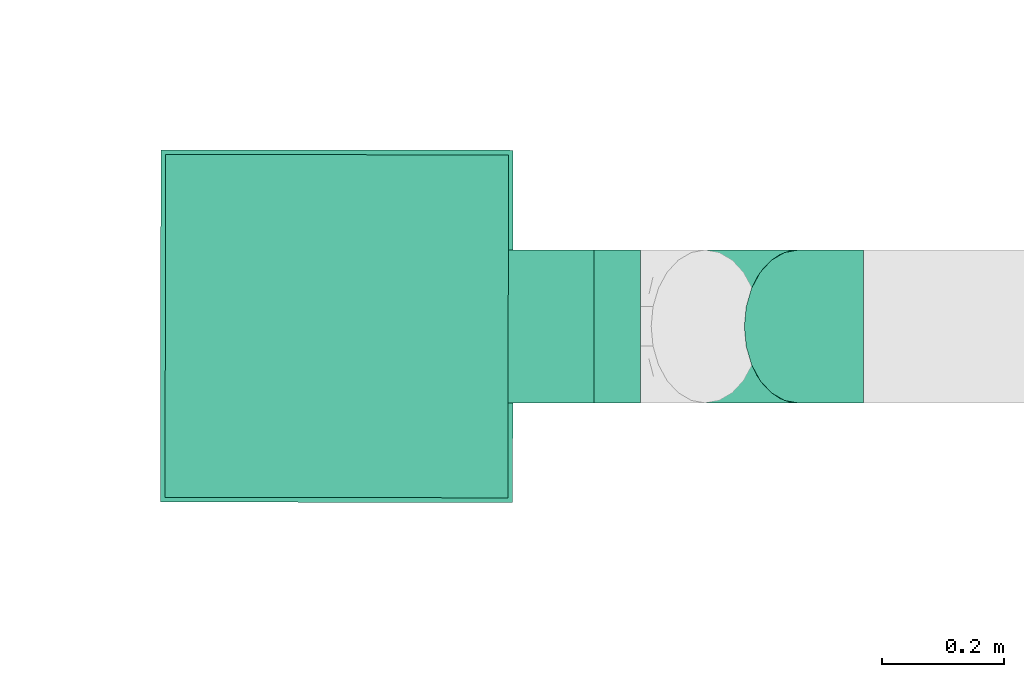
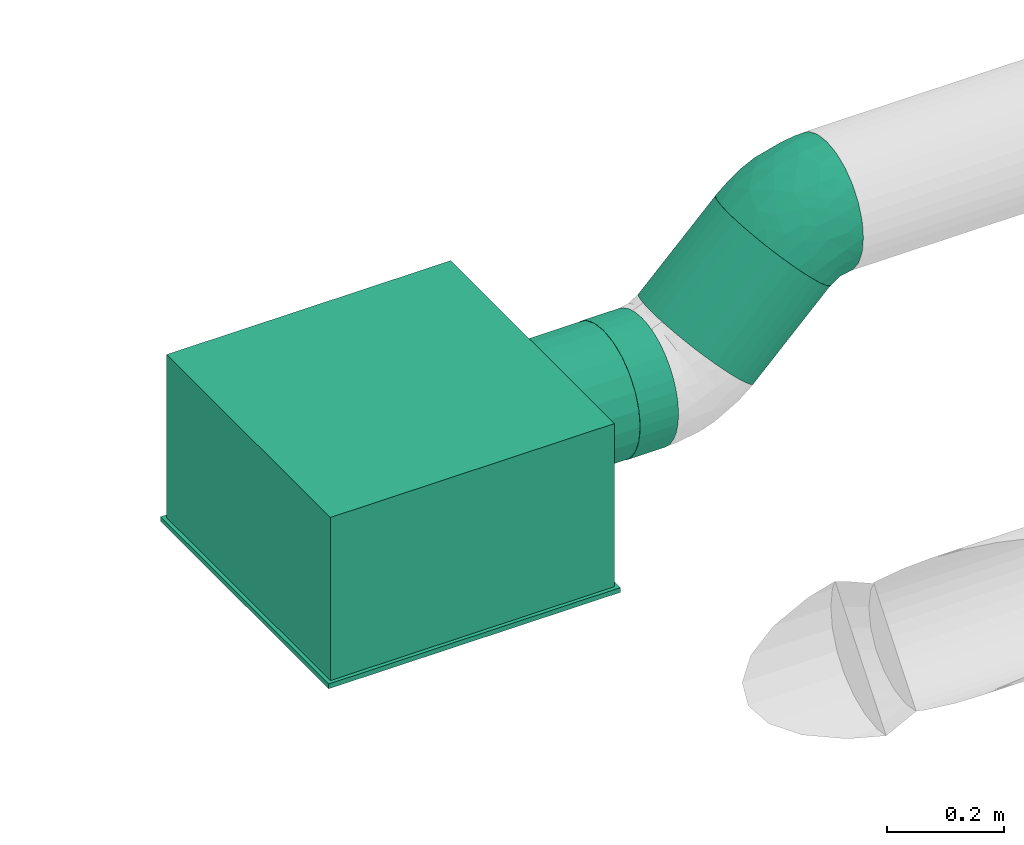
# One storey, part 48 of 63: 2 flow segments, 1 flow fitting, 1 flow terminal.
"""IFC2X3 building model written with IfcOpenShell, lengths in millimetres."""

from ifc_helpers import new_model, entity, si_unit, converted_unit, derived_unit, direction, frame, origin_with_axes, origin_2d_with_axis, place, context, subcontext, project, spatial, hollow_circle, extrude, open_shell, surface_model, source, transform, mapped, type_object, element, save


model = new_model("IFC2X3")

# Units and contexts
model_context = context("Model", 3, precision=0.01, world=frame((0.0, 4.29681676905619e-09, 0.0)), true_north=direction((4.01073788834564e-13, 1.0)))
plan_context = context("Plan", 3, precision=0.01, world=frame((0.0, 4.29681676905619e-09, 0.0)), true_north=direction((4.01073788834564e-13, 1.0)))
body_context = subcontext(model_context, "Body", "Model", "MODEL_VIEW")
ifc_project = project(units=[converted_unit("PLANEANGLEUNIT", "DEGREE", entity("IfcPositiveLengthMeasure", 0.0174532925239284), si_unit("PLANEANGLEUNIT", "RADIAN"), dimensions=[0, 0, 0, 0, 0, 0, 0]), si_unit("AREAUNIT", "SQUARE_METRE"), si_unit("LENGTHUNIT", "METRE", prefix="MILLI"), si_unit("MASSUNIT", "GRAM", prefix="KILO"), si_unit("POWERUNIT", "WATT"), si_unit("PRESSUREUNIT", "PASCAL"), si_unit("FORCEUNIT", "NEWTON", prefix="KILO"), si_unit("ELECTRICVOLTAGEUNIT", "VOLT"), si_unit("ELECTRICCURRENTUNIT", "AMPERE"), si_unit("THERMODYNAMICTEMPERATUREUNIT", "DEGREE_CELSIUS"), si_unit("TIMEUNIT", "SECOND"), si_unit("VOLUMEUNIT", "CUBIC_METRE"), derived_unit("LINEARVELOCITYUNIT", [(si_unit("LENGTHUNIT", "METRE"), 1), (si_unit("TIMEUNIT", "SECOND"), -1)]), derived_unit("VOLUMETRICFLOWRATEUNIT", [(si_unit("VOLUMEUNIT", "CUBIC_METRE"), 1), (si_unit("TIMEUNIT", "SECOND"), -1)]), derived_unit("THERMALTRANSMITTANCEUNIT", [(si_unit("POWERUNIT", "WATT"), 1), (si_unit("THERMODYNAMICTEMPERATUREUNIT", "KELVIN"), -1), (si_unit("AREAUNIT", "SQUARE_METRE"), -1)]), derived_unit("SOUNDPRESSUREUNIT", [(si_unit("PRESSUREUNIT", "PASCAL"), 1)])], contexts=[model_context, plan_context])

# Site, building, storey
site_placement = place(None, frame((0.0, -4.29681676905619e-09, 0.0), z_axis=(0.0, 0.0, 1.0), x_axis=(1.0, 0.0, 0.0)))
site = spatial("IfcSite", under=ifc_project, at=site_placement, CompositionType="ELEMENT")
building_placement = place(site_placement, frame((0.0, 4.29681676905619e-09, 0.0), z_axis=(0.0, 0.0, 1.0), x_axis=(1.0, 0.0, 0.0)))
building = spatial("IfcBuilding", under=site, at=building_placement, Name="mc-building", CompositionType="ELEMENT")
storey_placement = place(building_placement, frame((0.0, 0.0, 210900.0), z_axis=(0.0, 0.0, 1.0), x_axis=(1.0, 0.0, 0.0)))
storey = spatial("IfcBuildingStorey", under=building, at=storey_placement, Name="Nivå F", CompositionType="ELEMENT", Elevation=210900.0)

# Flow fitting
duct_fitting_type = type_object("IfcDuctFittingType", Name="magicirc_elbow_short_001", PredefinedType="BEND")
shared_shape_1 = source(origin_with_axes(), body_context, "Body", "SurfaceModel", [
    surface_model("IfcShellBasedSurfaceModel", [(-62.13204, 0.0, -125.0), (-62.13204, -32.35238, -120.74073), (-62.13204, 32.35238, -120.74073), (-62.13204, 62.5, -108.25318), (-62.13204, 88.38835, -88.38835), (-62.13204, 108.25318, -62.5), (-62.13204, 120.74073, -32.35238), (-62.13204, -62.5, -108.25318), (-62.13204, -88.38835, -88.38835), (-62.13204, -125.0, 0.0), (-62.13204, -108.25318, -62.5), (-62.13204, -120.74073, -32.35238), (-62.13204, 125.0, 0.0), (-62.13204, -120.74073, 32.35238), (-62.13204, 120.74073, 32.35238), (-62.13204, 108.25318, 62.5), (-62.13204, 32.35238, 120.74073), (-62.13204, 62.5, 108.25318), (-62.13204, 88.38835, 88.38835), (-62.13204, -88.38835, 88.38835), (-62.13204, -108.25318, 62.5), (-62.13204, -32.35238, 120.74073), (-62.13204, 0.0, 125.0), (-62.13204, -62.5, 108.25318), (-32.61257, 120.48054, -62.5), (-41.44261, 129.31057, -32.35238), (-44.45436, 132.32233, 0.0), (-41.44261, 129.31057, 32.35238), (-32.61257, 120.48054, 62.5), (-39.32094, -100.77129, 72.52866), (-25.3983, -115.58366, 40.92131), (-9.38975, -99.61313, 67.6303), (-40.71594, 99.20513, 81.38635), (-18.56602, 106.43398, 88.38835), (6.93461, -16.74165, 121.22697), (-29.92798, -19.88945, 122.8817), (-17.69423, -50.99343, 111.83063), (-28.63512, 12.8945, 124.68547), (-43.55871, 45.16564, 117.17454), (-19.1971, 46.34588, 119.14586), (20.11216, -107.05726, 35.36285), (37.22525, -89.79474, 60.1728), (-42.64489, 65.81413, 107.6176), (18.18237, -43.89615, 109.72868), (-48.14682, 116.23669, 52.46898), (11.13029, 29.36587, 124.68547), (-8.4822, -119.71595, 0.0), (17.31186, -111.89141, 0.0), (-27.44697, 77.92943, 103.54984), (-1.13628, 62.73759, 117.17454), (-0.26019, 88.12816, 108.25318), (29.58221, -71.41779, 87.09722), (2.27359, -83.55864, 84.32151), (46.20365, -49.09439, 98.73245), (43.10591, -104.06687, 0.0), (-28.63512, 12.89449, -124.68547), (-29.92797, -19.88945, -122.8817), (11.13029, 29.36586, -124.68547), (-19.1971, 46.34588, -119.14586), (-43.55871, 45.16564, -117.17454), (-35.69649, 74.51237, -103.54983), (-25.3983, -115.58366, -40.92131), (-48.14682, 116.23669, -52.46898), (-39.32094, -100.77129, -72.52866), (-16.38313, 76.69211, -107.6176), (-18.56602, 106.43398, -88.38835), (-0.26019, 88.12816, -108.25318), (-17.69423, -50.99343, -111.83063), (6.93461, -16.74165, -121.22697), (-1.13628, 62.73759, -117.17454), (48.5695, -23.54609, -111.83063), (35.22623, 7.0983, -122.8817), (-9.38975, -99.61313, -67.63031), (2.04406, -67.38589, -98.73245), (29.58221, -71.41778, -87.09723), (43.93399, 43.934, -125.0), (106.43399, -18.56599, 88.38835), (132.32235, -44.45434, 0.0), (21.05739, 66.81058, -120.74073), (88.12817, -0.26017, 108.25318), (66.81057, 21.05741, -120.74073), (106.43399, -18.56599, -88.38835), (88.12817, -0.26017, -108.25318), (129.31058, -41.44258, -32.35238), (120.48055, -32.61255, -62.5), (21.05739, 66.81058, 120.74073), (43.93399, 43.934, 125.0), (129.31058, -41.44258, 32.35238), (120.48055, -32.61255, 62.5), (66.81057, 21.05741, 120.74073), (-31.08246, -121.94188, 0.0), (35.22622, 7.09831, 122.8817), (77.07669, -63.79755, 67.6303), (61.9235, -89.5906, 35.66991), (-52.56496, 126.90301, 0.0), (99.68931, -63.77067, 40.92131), (48.5695, -23.54609, 111.83062), (99.06018, -43.45194, 72.52866), (74.0201, -37.27574, 94.74512), (108.20455, -64.2473, 0.0), (90.64979, -78.65413, 0.0), (66.87785, -91.36049, 0.0), (-3.43913, -67.17105, 100.02812), (19.56361, -107.13664, -35.66991), (-41.35812, 98.93914, -81.38635), (-25.98217, -78.69805, -94.74512), (61.47949, -89.92235, -35.36285), (18.18239, -43.89616, -109.72867), (57.47721, -60.69254, -84.32152), (74.02009, -37.27574, -94.74513), (77.07669, -63.79755, -67.6303), (37.17223, -89.81669, -60.17279), (99.68931, -63.77066, -40.92131), (99.06018, -43.45194, -72.52866), (49.92893, -45.06527, -100.02812), (-25.98217, -78.69805, 94.74512)], [open_shell([[[0, 1, 2]], [[3, 2, 4]], [[1, 5, 2]], [[4, 2, 5]], [[5, 1, 6]], [[7, 8, 1]], [[9, 1, 8]], [[10, 11, 8]], [[9, 8, 11]], [[9, 6, 1]], [[9, 12, 6]], [[12, 13, 14]], [[15, 14, 16]], [[16, 17, 18]], [[15, 16, 18]], [[16, 14, 19]], [[20, 19, 13]], [[19, 14, 13]], [[21, 22, 23]], [[19, 23, 22]], [[19, 22, 16]], [[9, 13, 12]], [[24, 25, 26]], [[26, 27, 28]], [[29, 30, 31]], [[32, 33, 28]], [[30, 20, 13]], [[34, 35, 36]], [[21, 35, 22]], [[21, 23, 36]], [[16, 22, 37]], [[38, 37, 39]], [[31, 40, 41]], [[42, 17, 38]], [[38, 17, 16]], [[43, 34, 36]], [[35, 37, 22]], [[14, 15, 44]], [[42, 32, 18]], [[29, 19, 20]], [[40, 31, 30]], [[37, 45, 39]], [[45, 37, 34]], [[40, 46, 47]], [[42, 18, 17]], [[33, 32, 48]], [[27, 44, 28]], [[48, 39, 49]], [[33, 48, 50]], [[44, 32, 28]], [[18, 32, 15]], [[36, 35, 21]], [[37, 35, 34]], [[41, 51, 52]], [[14, 44, 27]], [[32, 44, 15]], [[37, 38, 16]], [[42, 39, 48]], [[39, 42, 38]], [[42, 48, 32]], [[48, 49, 50]], [[45, 49, 39]], [[30, 29, 20]], [[53, 43, 51]], [[46, 40, 30]], [[47, 54, 40]], [[41, 52, 31]], [[0, 2, 55]], [[56, 1, 0]], [[57, 55, 58]], [[59, 60, 58]], [[10, 61, 11]], [[3, 4, 60]], [[62, 6, 25]], [[61, 10, 63]], [[64, 65, 66]], [[1, 56, 67]], [[8, 63, 10]], [[7, 1, 67]], [[56, 55, 68]], [[25, 24, 62]], [[69, 64, 66]], [[2, 3, 59]], [[59, 55, 2]], [[69, 57, 58]], [[70, 68, 71]], [[55, 57, 68]], [[55, 56, 0]], [[67, 56, 68]], [[57, 71, 68]], [[6, 62, 5]], [[60, 59, 3]], [[55, 59, 58]], [[64, 58, 60]], [[58, 64, 69]], [[61, 63, 72]], [[72, 73, 74]], [[75, 76, 77]], [[66, 26, 78]], [[78, 79, 75]], [[24, 66, 65]], [[66, 24, 26]], [[80, 81, 82]], [[80, 75, 81]], [[81, 83, 84]], [[83, 81, 77]], [[75, 77, 81]], [[26, 28, 50]], [[50, 85, 26]], [[50, 28, 33]], [[26, 85, 86]], [[87, 76, 88]], [[77, 76, 87]], [[79, 86, 89]], [[76, 75, 79]], [[86, 79, 26]], [[78, 26, 79]], [[90, 46, 30]], [[91, 45, 34]], [[92, 41, 93]], [[94, 14, 27]], [[40, 93, 41]], [[94, 12, 14]], [[92, 93, 95]], [[40, 54, 93]], [[96, 89, 91]], [[97, 88, 76]], [[89, 96, 79]], [[88, 97, 95]], [[88, 95, 87]], [[96, 98, 79]], [[53, 92, 98]], [[95, 99, 87]], [[85, 50, 49]], [[41, 92, 51]], [[30, 13, 90]], [[26, 94, 27]], [[93, 100, 95]], [[93, 54, 101]], [[86, 91, 89]], [[86, 85, 45]], [[45, 85, 49]], [[34, 43, 96]], [[79, 98, 76]], [[93, 101, 100]], [[53, 98, 96]], [[97, 98, 92]], [[45, 91, 86]], [[96, 91, 34]], [[13, 9, 90]], [[99, 95, 100]], [[99, 77, 87]], [[98, 97, 76]], [[95, 97, 92]], [[51, 43, 102]], [[51, 102, 52]], [[43, 36, 102]], [[43, 53, 96]], [[92, 53, 51]], [[103, 46, 61]], [[78, 75, 57]], [[4, 104, 60]], [[73, 72, 105]], [[80, 82, 70]], [[61, 90, 11]], [[83, 77, 99]], [[105, 7, 67]], [[106, 100, 101]], [[103, 54, 47]], [[72, 103, 61]], [[105, 8, 7]], [[68, 107, 67]], [[6, 12, 94]], [[108, 109, 110]], [[94, 26, 25]], [[111, 72, 74]], [[112, 83, 99]], [[82, 81, 109]], [[112, 84, 83]], [[64, 104, 65]], [[4, 5, 104]], [[113, 81, 84]], [[109, 108, 114]], [[70, 82, 109]], [[66, 78, 69]], [[75, 80, 71]], [[110, 113, 112]], [[107, 68, 70]], [[112, 99, 100]], [[106, 103, 111]], [[106, 110, 112]], [[110, 106, 111]], [[71, 57, 75]], [[103, 47, 46]], [[94, 25, 6]], [[113, 109, 81]], [[106, 54, 103]], [[73, 105, 67]], [[63, 105, 72]], [[62, 104, 5]], [[65, 104, 24]], [[70, 71, 80]], [[90, 61, 46]], [[90, 9, 11]], [[72, 111, 103]], [[111, 74, 108]], [[104, 62, 24]], [[57, 69, 78]], [[64, 60, 104]], [[112, 113, 84]], [[109, 113, 110]], [[105, 63, 8]], [[114, 70, 109]], [[73, 107, 74]], [[100, 106, 112]], [[101, 54, 106]], [[111, 108, 110]], [[74, 107, 114]], [[74, 114, 108]], [[107, 70, 114]], [[107, 73, 67]], [[23, 115, 36]], [[52, 102, 115]], [[23, 19, 115]], [[29, 115, 19]], [[52, 115, 31]], [[115, 29, 31]], [[102, 36, 115]]])]),
])
flow_fitting_placement = place(storey_placement, frame((533099.33392, 460995.43816, 4200.0), z_axis=(-3.79470760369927e-19, 0.999999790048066, 0.000647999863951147), x_axis=(0.707106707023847, -0.000458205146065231, 0.707106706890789)))
element("IfcFlowFitting", 1, at=flow_fitting_placement, inside=storey, type_object=duct_fitting_type, Name="magicirc_elbow_short_001", context=body_context, shape_type="MappedRepresentation", body=[
    mapped(shared_shape_1, transform((0.0, 0.0, 0.0), scale=1.0)),
])

# Flow segments
duct_segment_type = type_object("IfcDuctSegmentType", Name="KK002T - Spiro kanaler, Forsinket stål, korte bend", PredefinedType="RIGIDSEGMENT")
shared_shape_2 = source(origin_with_axes(), body_context, "Body", "SweptSolid", [
    extrude(hollow_circle(Radius=125.0, WallThickness=2.0, at=origin_2d_with_axis()), frame((0.0, 0.0, 0.0), z_axis=(1.0, 0.0, 0.0), x_axis=(0.0, 1.0, 0.0)), (0.0, 0.0, 1.0), 75.7),
])
flow_segment_1_placement = place(storey_placement, frame((532721.49467, 460995.68291, 3960.01264), z_axis=(0.0, 0.0, 1.0), x_axis=(0.999999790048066, -0.000647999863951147, 0.0)))
element("IfcFlowSegment", 2, at=flow_segment_1_placement, inside=storey, type_object=duct_segment_type, Name="KK002T - Spiro kanaler, Forsinket stål, korte bend", context=body_context, shape_type="MappedRepresentation", body=[
    mapped(shared_shape_2, transform((0.0, 0.0, 0.0), scale=1.0)),
])
shared_shape_3 = source(origin_with_axes(), body_context, "Body", "SweptSolid", [
    extrude(hollow_circle(Radius=125.0, WallThickness=2.0, at=origin_2d_with_axis()), frame((0.0, 0.0, 0.0), z_axis=(1.0, 0.0, 0.0), x_axis=(0.0, 1.0, 0.0)), (0.0, 0.0, 1.0), 215.1),
])
flow_segment_2_placement = place(storey_placement, frame((532903.28065, 460995.56516, 4003.94662999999), z_axis=(-0.707106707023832, 0.00045799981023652, 0.707106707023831), x_axis=(0.707106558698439, -0.000457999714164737, 0.707106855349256)))
element("IfcFlowSegment", 3, at=flow_segment_2_placement, inside=storey, type_object=duct_segment_type, Name="KK002T - Spiro kanaler, Forsinket stål, korte bend", context=body_context, shape_type="MappedRepresentation", body=[
    mapped(shared_shape_3, transform((0.0, 0.0, 0.0), scale=1.0)),
])

# Flow terminal
air_terminal_type = type_object("IfcAirTerminalType", Name="NS19-H-S-2-250 - 4-way", PredefinedType="NOTDEFINED")
shared_shape_4 = source(origin_with_axes(), body_context, "Body", "SurfaceModel", [
    surface_model("IfcShellBasedSurfaceModel", [(-287.5, 287.5, 0.0), (-287.5, -287.5, 0.0), (287.5, -287.5, 0.0), (287.5, 287.5, 0.0), (287.5, 287.5, -10.0), (287.5, -287.5, -10.0), (-287.5, -287.5, -10.0), (-287.5, 287.5, -10.0), (-280.0, 280.0, 340.0), (-280.0, -280.0, 340.0), (280.0, -280.0, 340.0), (280.0, 280.0, 340.0), (280.0, 280.0, 0.0), (280.0, -280.0, 0.0), (-280.0, -280.0, 0.0), (-280.0, 280.0, 0.0), (-280.0, 62.5, 81.74683), (-280.0, 88.38835, 101.61165), (-280.0, 62.4, 81.92003), (-280.0, 32.30062, 69.45246), (-280.0, 0.0, 65.2), (-280.0, 32.35238, 69.25927), (-280.0, 0.0, 65.0), (-280.0, 88.24693, 101.75307), (-280.0, 120.74073, 157.64763), (-280.0, 124.8, 189.99999), (-280.0, 120.54755, 157.69939), (-280.0, 125.0, 189.99999), (-280.0, 108.25318, 127.5), (-280.0, 108.07997, 127.6), (-280.0, -32.30062, 69.45246), (-280.0, -32.35238, 69.25927), (-280.0, -62.4, 81.92003), (-280.0, -88.38835, 101.61165), (-280.0, -62.5, 81.74683), (-280.0, -88.24693, 101.75307), (-280.0, -108.07997, 127.6), (-280.0, -108.25318, 127.5), (-280.0, -120.54755, 157.69939), (-280.0, -120.74073, 157.64763), (-280.0, -124.8, 189.99999), (-280.0, -125.0, 189.99999), (-280.0, 120.74073, 222.35238), (-280.0, 120.54755, 222.30062), (-280.0, 108.07997, 252.4), (-280.0, 108.25318, 252.49999), (-280.0, 88.24693, 278.24693), (-280.0, 88.38835, 278.38835), (-280.0, 62.5, 298.25318), (-280.0, 62.4, 298.07997), (-280.0, 32.30062, 310.54754), (-280.0, 32.35238, 310.74073), (-280.0, 0.0, 314.80001), (-280.0, 0.0, 315.0), (-280.0, -108.25318, 252.49999), (-280.0, -108.07997, 252.4), (-280.0, -88.38835, 278.38835), (-280.0, -88.24693, 278.24693), (-280.0, -120.74073, 222.35238), (-280.0, -120.54755, 222.30062), (-280.0, -32.30062, 310.54754), (-280.0, -32.35238, 310.74073), (-280.0, -62.4, 298.07997), (-280.0, -62.5, 298.25318), (-420.00002, 62.5, 298.25318), (-420.00002, 88.38835, 278.38835), (-420.00002, 62.4, 298.07997), (-420.00002, 32.30062, 310.54754), (-420.00002, 0.0, 314.80001), (-420.00002, 32.35238, 310.74073), (-420.00002, 0.0, 315.0), (-420.00002, 88.24693, 278.24693), (-420.00002, 120.74073, 222.35238), (-420.00002, 124.8, 189.99999), (-420.00002, 120.54755, 222.30062), (-420.00002, 125.0, 189.99999), (-420.00002, 108.25318, 252.49999), (-420.00002, 108.07997, 252.4), (-420.00002, -32.30062, 310.54754), (-420.00002, -32.35238, 310.74073), (-420.00002, -62.4, 298.07997), (-420.00002, -88.38835, 278.38835), (-420.00002, -62.5, 298.25318), (-420.00002, -88.24693, 278.24693), (-420.00002, -108.07997, 252.4), (-420.00002, -108.25318, 252.49999), (-420.00002, -120.54755, 222.30062), (-420.00002, -120.74073, 222.35238), (-420.00002, -124.8, 189.99999), (-420.00002, -125.0, 189.99999), (-420.00002, 120.74073, 157.64763), (-420.00002, 120.54755, 157.69939), (-420.00002, 108.07997, 127.6), (-420.00002, 108.25318, 127.5), (-420.00002, 88.24693, 101.75307), (-420.00002, 88.38835, 101.61165), (-420.00002, 62.5, 81.74683), (-420.00002, 62.4, 81.92003), (-420.00002, 32.30062, 69.45246), (-420.00002, 32.35238, 69.25927), (-420.00002, 0.0, 65.2), (-420.00002, 0.0, 65.0), (-420.00002, -108.25318, 127.5), (-420.00002, -108.07997, 127.6), (-420.00002, -88.38835, 101.61165), (-420.00002, -88.24693, 101.75307), (-420.00002, -120.74073, 157.64763), (-420.00002, -120.54755, 157.69939), (-420.00002, -32.30062, 69.45246), (-420.00002, -32.35238, 69.25927), (-420.00002, -62.4, 81.92003), (-420.00002, -62.5, 81.74683)], [open_shell([[[0, 1, 2]], [[2, 3, 0]], [[4, 5, 6]], [[6, 7, 4]], [[2, 1, 6]], [[6, 5, 2]], [[3, 2, 5]], [[5, 4, 3]], [[0, 3, 4]], [[4, 7, 0]], [[1, 0, 7]], [[7, 6, 1]], [[8, 9, 10]], [[10, 11, 8]], [[12, 13, 14]], [[14, 15, 12]], [[10, 9, 14]], [[14, 13, 10]], [[11, 10, 13]], [[13, 12, 11]], [[8, 11, 12]], [[12, 15, 8]], [[9, 8, 15]], [[15, 14, 9]], [[16, 17, 18]], [[16, 18, 19]], [[20, 21, 19]], [[21, 20, 22]], [[19, 21, 16]], [[18, 17, 23]], [[24, 25, 26]], [[25, 24, 27]], [[24, 26, 28]], [[23, 28, 29]], [[28, 23, 17]], [[29, 28, 26]], [[22, 30, 31]], [[31, 30, 32]], [[33, 34, 35]], [[32, 34, 31]], [[32, 35, 34]], [[22, 20, 30]], [[36, 37, 33]], [[37, 36, 38]], [[36, 33, 35]], [[39, 38, 40]], [[38, 39, 37]], [[39, 40, 41]], [[27, 42, 43]], [[43, 42, 44]], [[44, 45, 46]], [[45, 44, 42]], [[46, 45, 47]], [[47, 48, 49]], [[49, 48, 50]], [[50, 51, 52]], [[51, 50, 48]], [[52, 51, 53]], [[49, 46, 47]], [[54, 55, 56]], [[56, 55, 57]], [[55, 54, 58]], [[41, 59, 58]], [[58, 59, 55]], [[41, 40, 59]], [[60, 53, 61]], [[60, 61, 62]], [[57, 63, 56]], [[57, 62, 63]], [[63, 62, 61]], [[52, 53, 60]], [[43, 25, 27]], [[64, 65, 66]], [[64, 66, 67]], [[68, 69, 67]], [[69, 68, 70]], [[67, 69, 64]], [[66, 65, 71]], [[72, 73, 74]], [[73, 72, 75]], [[72, 74, 76]], [[71, 76, 77]], [[76, 71, 65]], [[77, 76, 74]], [[70, 78, 79]], [[79, 78, 80]], [[81, 82, 83]], [[80, 82, 79]], [[80, 83, 82]], [[70, 68, 78]], [[84, 85, 81]], [[85, 84, 86]], [[84, 81, 83]], [[87, 86, 88]], [[86, 87, 85]], [[87, 88, 89]], [[75, 90, 91]], [[91, 90, 92]], [[92, 93, 94]], [[93, 92, 90]], [[94, 93, 95]], [[95, 96, 97]], [[97, 96, 98]], [[98, 99, 100]], [[99, 98, 96]], [[100, 99, 101]], [[97, 94, 95]], [[102, 103, 104]], [[104, 103, 105]], [[103, 102, 106]], [[89, 107, 106]], [[106, 107, 103]], [[89, 88, 107]], [[108, 101, 109]], [[108, 109, 110]], [[105, 111, 104]], [[105, 110, 111]], [[111, 110, 109]], [[100, 101, 108]], [[91, 73, 75]], [[39, 106, 102]], [[104, 37, 102]], [[34, 111, 109]], [[104, 111, 33]], [[31, 109, 101]], [[106, 41, 89]], [[106, 39, 41]], [[102, 37, 39]], [[104, 33, 37]], [[34, 33, 111]], [[109, 31, 34]], [[101, 22, 31]], [[21, 99, 96]], [[95, 16, 96]], [[28, 93, 90]], [[95, 93, 17]], [[24, 90, 75]], [[99, 21, 22]], [[96, 16, 21]], [[95, 17, 16]], [[93, 28, 17]], [[24, 28, 90]], [[75, 27, 24]], [[99, 22, 101]], [[42, 75, 72]], [[45, 72, 76]], [[48, 64, 69]], [[51, 69, 70]], [[72, 45, 42]], [[42, 27, 75]], [[65, 47, 45]], [[47, 65, 48]], [[48, 65, 64]], [[69, 51, 48]], [[65, 45, 76]], [[70, 53, 51]], [[61, 79, 82]], [[81, 63, 82]], [[54, 85, 87]], [[81, 85, 56]], [[58, 87, 89]], [[79, 61, 53]], [[82, 63, 61]], [[81, 56, 63]], [[85, 54, 56]], [[58, 54, 87]], [[89, 41, 58]], [[79, 53, 70]], [[103, 107, 38]], [[103, 36, 105]], [[108, 110, 32]], [[35, 110, 105]], [[100, 108, 30]], [[88, 40, 107]], [[40, 38, 107]], [[38, 36, 103]], [[36, 35, 105]], [[110, 35, 32]], [[32, 30, 108]], [[30, 20, 100]], [[97, 98, 19]], [[97, 18, 94]], [[91, 92, 29]], [[23, 92, 94]], [[73, 91, 26]], [[20, 19, 98]], [[19, 18, 97]], [[18, 23, 94]], [[23, 29, 92]], [[91, 29, 26]], [[26, 25, 73]], [[100, 20, 98]], [[74, 73, 43]], [[77, 74, 44]], [[67, 66, 49]], [[68, 67, 50]], [[43, 44, 74]], [[73, 25, 43]], [[44, 46, 71]], [[49, 71, 46]], [[66, 71, 49]], [[49, 50, 67]], [[77, 44, 71]], [[50, 52, 68]], [[80, 78, 60]], [[80, 62, 83]], [[86, 84, 55]], [[57, 84, 83]], [[88, 86, 59]], [[52, 60, 78]], [[60, 62, 80]], [[62, 57, 83]], [[57, 55, 84]], [[86, 55, 59]], [[59, 40, 88]], [[68, 52, 78]]])]),
])
flow_terminal_placement = place(storey_placement, frame((532301.46702, 460995.95498, 3770.0), z_axis=(0.0, 0.0, 1.0), x_axis=(-0.999999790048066, 0.000647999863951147, 0.0)))
element("IfcFlowTerminal", 4, at=flow_terminal_placement, inside=storey, type_object=air_terminal_type, Name="NS19-H-S-2-250 - 4-way", context=body_context, shape_type="MappedRepresentation", body=[
    mapped(shared_shape_4, transform((0.0, 0.0, 0.0), scale=1.0)),
])

save(model, "model.ifc")
